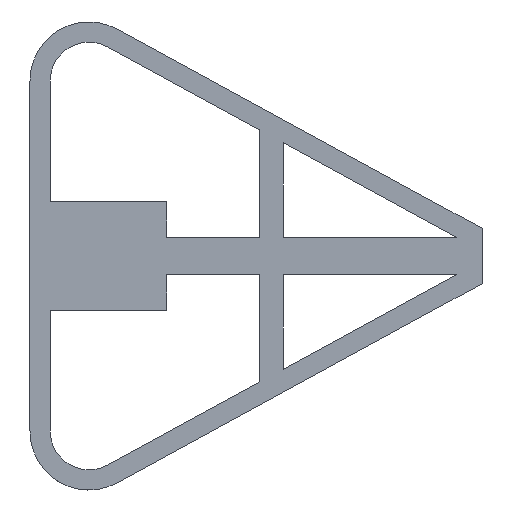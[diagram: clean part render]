
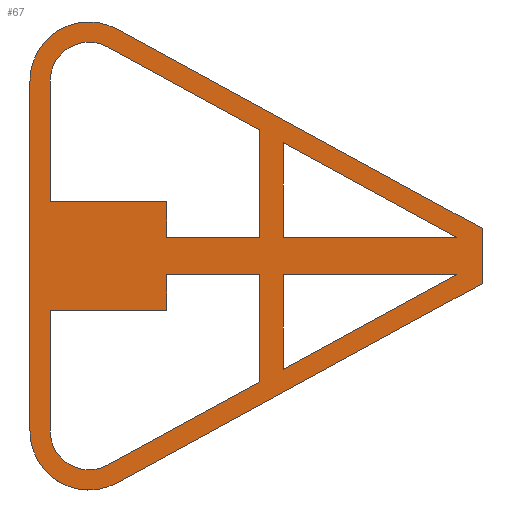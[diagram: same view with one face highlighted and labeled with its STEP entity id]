
A CAD part, top view. The second image highlights one B-rep face of the part: STEP entity #67.
In plain terms, the highlighted planar face has unit normal (0, 0, 1).
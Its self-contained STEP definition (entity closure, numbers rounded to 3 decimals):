
#67=ADVANCED_FACE('',(#325,#327,#329,#331,#333),#335,.T.);
#325=FACE_BOUND('',#326,.T.);
#326=EDGE_LOOP('',(#548,#549,#550,#551,#552,#553));
#327=FACE_BOUND('',#328,.T.);
#328=EDGE_LOOP('',(#554,#555,#556));
#329=FACE_BOUND('',#330,.T.);
#330=EDGE_LOOP('',(#557,#558,#559,#560,#561,#562,#563));
#331=FACE_BOUND('',#332,.T.);
#332=EDGE_LOOP('',(#564,#565,#566));
#333=FACE_BOUND('',#334,.T.);
#334=EDGE_LOOP('',(#567,#568,#569,#570,#571,#572,#573));
#335=PLANE('',#336);
#336=AXIS2_PLACEMENT_3D('',#337,#338,#339);
#337=CARTESIAN_POINT('',(0.,0.,0.6));
#338=DIRECTION('',(0.,0.,1.));
#339=DIRECTION('',(1.,0.,0.));
#548=ORIENTED_EDGE('',*,*,#704,.T.);
#549=ORIENTED_EDGE('',*,*,#705,.T.);
#550=ORIENTED_EDGE('',*,*,#706,.T.);
#551=ORIENTED_EDGE('',*,*,#707,.T.);
#552=ORIENTED_EDGE('',*,*,#708,.T.);
#553=ORIENTED_EDGE('',*,*,#709,.T.);
#554=ORIENTED_EDGE('',*,*,#710,.T.);
#555=ORIENTED_EDGE('',*,*,#711,.T.);
#556=ORIENTED_EDGE('',*,*,#712,.T.);
#557=ORIENTED_EDGE('',*,*,#713,.T.);
#558=ORIENTED_EDGE('',*,*,#714,.T.);
#559=ORIENTED_EDGE('',*,*,#715,.T.);
#560=ORIENTED_EDGE('',*,*,#716,.T.);
#561=ORIENTED_EDGE('',*,*,#717,.T.);
#562=ORIENTED_EDGE('',*,*,#718,.T.);
#563=ORIENTED_EDGE('',*,*,#719,.T.);
#564=ORIENTED_EDGE('',*,*,#720,.T.);
#565=ORIENTED_EDGE('',*,*,#721,.T.);
#566=ORIENTED_EDGE('',*,*,#722,.T.);
#567=ORIENTED_EDGE('',*,*,#723,.T.);
#568=ORIENTED_EDGE('',*,*,#724,.T.);
#569=ORIENTED_EDGE('',*,*,#725,.T.);
#570=ORIENTED_EDGE('',*,*,#726,.T.);
#571=ORIENTED_EDGE('',*,*,#727,.T.);
#572=ORIENTED_EDGE('',*,*,#728,.T.);
#573=ORIENTED_EDGE('',*,*,#729,.T.);
#704=EDGE_CURVE('',#808,#809,#810,.F.);
#705=EDGE_CURVE('',#809,#811,#812,.F.);
#706=EDGE_CURVE('',#811,#813,#814,.F.);
#707=EDGE_CURVE('',#813,#815,#816,.F.);
#708=EDGE_CURVE('',#815,#817,#818,.F.);
#709=EDGE_CURVE('',#817,#808,#819,.F.);
#710=EDGE_CURVE('',#820,#821,#822,.T.);
#711=EDGE_CURVE('',#821,#823,#824,.T.);
#712=EDGE_CURVE('',#823,#820,#825,.T.);
#713=EDGE_CURVE('',#826,#827,#828,.T.);
#714=EDGE_CURVE('',#827,#829,#830,.T.);
#715=EDGE_CURVE('',#829,#831,#832,.T.);
#716=EDGE_CURVE('',#831,#833,#834,.T.);
#717=EDGE_CURVE('',#833,#835,#836,.T.);
#718=EDGE_CURVE('',#835,#837,#838,.T.);
#719=EDGE_CURVE('',#837,#826,#839,.T.);
#720=EDGE_CURVE('',#840,#841,#842,.T.);
#721=EDGE_CURVE('',#841,#843,#844,.T.);
#722=EDGE_CURVE('',#843,#840,#845,.T.);
#723=EDGE_CURVE('',#846,#847,#848,.T.);
#724=EDGE_CURVE('',#847,#849,#850,.T.);
#725=EDGE_CURVE('',#849,#851,#852,.T.);
#726=EDGE_CURVE('',#851,#853,#854,.T.);
#727=EDGE_CURVE('',#853,#855,#856,.T.);
#728=EDGE_CURVE('',#855,#857,#858,.T.);
#729=EDGE_CURVE('',#857,#846,#859,.T.);
#808=VERTEX_POINT('',#994);
#809=VERTEX_POINT('',#995);
#810=CIRCLE('',#996,38.);
#811=VERTEX_POINT('',#1000);
#812=LINE('',#1001,#1002);
#813=VERTEX_POINT('',#1004);
#814=LINE('',#1005,#1006);
#815=VERTEX_POINT('',#1008);
#816=LINE('',#1009,#1010);
#817=VERTEX_POINT('',#1012);
#818=CIRCLE('',#1013,38.);
#819=LINE('',#1017,#1018);
#820=VERTEX_POINT('',#1020);
#821=VERTEX_POINT('',#1021);
#822=LINE('',#1022,#1023);
#823=VERTEX_POINT('',#1025);
#824=LINE('',#1026,#1027);
#825=LINE('',#1029,#1030);
#826=VERTEX_POINT('',#1032);
#827=VERTEX_POINT('',#1033);
#828=LINE('',#1034,#1035);
#829=VERTEX_POINT('',#1037);
#830=CIRCLE('',#1038,25.);
#831=VERTEX_POINT('',#1042);
#832=LINE('',#1043,#1044);
#833=VERTEX_POINT('',#1046);
#834=LINE('',#1047,#1048);
#835=VERTEX_POINT('',#1050);
#836=LINE('',#1051,#1052);
#837=VERTEX_POINT('',#1054);
#838=LINE('',#1055,#1056);
#839=LINE('',#1058,#1059);
#840=VERTEX_POINT('',#1061);
#841=VERTEX_POINT('',#1062);
#842=LINE('',#1063,#1064);
#843=VERTEX_POINT('',#1066);
#844=LINE('',#1067,#1068);
#845=LINE('',#1070,#1071);
#846=VERTEX_POINT('',#1073);
#847=VERTEX_POINT('',#1074);
#848=CIRCLE('',#1075,25.);
#849=VERTEX_POINT('',#1079);
#850=LINE('',#1080,#1081);
#851=VERTEX_POINT('',#1083);
#852=LINE('',#1084,#1085);
#853=VERTEX_POINT('',#1087);
#854=LINE('',#1088,#1089);
#855=VERTEX_POINT('',#1091);
#856=LINE('',#1092,#1093);
#857=VERTEX_POINT('',#1095);
#858=LINE('',#1096,#1097);
#859=LINE('',#1099,#1100);
#994=CARTESIAN_POINT('',(-293.,-112.617,0.6));
#995=CARTESIAN_POINT('',(-236.794,-145.971,0.6));
#996=AXIS2_PLACEMENT_3D('',#997,#998,#999);
#997=CARTESIAN_POINT('',(-255.,-112.617,0.6));
#998=DIRECTION('',(0.,0.,-1.));
#999=DIRECTION('',(0.479,-0.878,0.));
#1000=CARTESIAN_POINT('',(-2.,-17.813,0.6));
#1001=CARTESIAN_POINT('',(-2.,-17.813,0.6));
#1002=VECTOR('',#1003,1.);
#1003=DIRECTION('',(-0.878,-0.479,0.));
#1004=CARTESIAN_POINT('',(-2.,17.813,0.6));
#1005=CARTESIAN_POINT('',(-2.,17.813,0.6));
#1006=VECTOR('',#1007,1.);
#1007=DIRECTION('',(0.,-1.,0.));
#1008=CARTESIAN_POINT('',(-236.794,145.971,0.6));
#1009=CARTESIAN_POINT('',(-236.794,145.971,0.6));
#1010=VECTOR('',#1011,1.);
#1011=DIRECTION('',(0.878,-0.479,0.));
#1012=CARTESIAN_POINT('',(-293.,112.617,0.6));
#1013=AXIS2_PLACEMENT_3D('',#1014,#1015,#1016);
#1014=CARTESIAN_POINT('',(-255.,112.617,0.6));
#1015=DIRECTION('',(0.,0.,-1.));
#1016=DIRECTION('',(-1.,0.,0.));
#1017=CARTESIAN_POINT('',(-293.,-112.617,0.6));
#1018=VECTOR('',#1019,1.);
#1019=DIRECTION('',(0.,1.,0.));
#1020=CARTESIAN_POINT('',(-130.076,72.911,0.6));
#1021=CARTESIAN_POINT('',(-18.484,12.,0.6));
#1022=CARTESIAN_POINT('',(-130.076,72.911,0.6));
#1023=VECTOR('',#1024,1.);
#1024=DIRECTION('',(0.878,-0.479,0.));
#1025=CARTESIAN_POINT('',(-130.076,12.,0.6));
#1026=CARTESIAN_POINT('',(-18.484,12.,0.6));
#1027=VECTOR('',#1028,1.);
#1028=DIRECTION('',(-1.,0.,0.));
#1029=CARTESIAN_POINT('',(-130.076,12.,0.6));
#1030=VECTOR('',#1031,1.);
#1031=DIRECTION('',(0.,1.,0.));
#1032=CARTESIAN_POINT('',(-280.,35.,0.6));
#1033=CARTESIAN_POINT('',(-280.,112.617,0.6));
#1034=CARTESIAN_POINT('',(-280.,35.,0.6));
#1035=VECTOR('',#1036,1.);
#1036=DIRECTION('',(0.,1.,0.));
#1037=CARTESIAN_POINT('',(-243.022,134.561,0.6));
#1038=AXIS2_PLACEMENT_3D('',#1039,#1040,#1041);
#1039=CARTESIAN_POINT('',(-255.,112.617,0.6));
#1040=DIRECTION('',(0.,0.,-1.));
#1041=DIRECTION('',(-1.,0.,0.));
#1042=CARTESIAN_POINT('',(-145.076,81.098,0.6));
#1043=CARTESIAN_POINT('',(-243.022,134.561,0.6));
#1044=VECTOR('',#1045,1.);
#1045=DIRECTION('',(0.878,-0.479,0.));
#1046=CARTESIAN_POINT('',(-145.076,12.,0.6));
#1047=CARTESIAN_POINT('',(-145.076,81.098,0.6));
#1048=VECTOR('',#1049,1.);
#1049=DIRECTION('',(0.,-1.,0.));
#1050=CARTESIAN_POINT('',(-205.027,12.,0.6));
#1051=CARTESIAN_POINT('',(-145.076,12.,0.6));
#1052=VECTOR('',#1053,1.);
#1053=DIRECTION('',(-1.,0.,0.));
#1054=CARTESIAN_POINT('',(-205.027,35.,0.6));
#1055=CARTESIAN_POINT('',(-205.027,12.,0.6));
#1056=VECTOR('',#1057,1.);
#1057=DIRECTION('',(0.,1.,0.));
#1058=CARTESIAN_POINT('',(-205.027,35.,0.6));
#1059=VECTOR('',#1060,1.);
#1060=DIRECTION('',(-1.,0.,0.));
#1061=CARTESIAN_POINT('',(-130.076,-12.,0.6));
#1062=CARTESIAN_POINT('',(-18.484,-12.,0.6));
#1063=CARTESIAN_POINT('',(-130.076,-12.,0.6));
#1064=VECTOR('',#1065,1.);
#1065=DIRECTION('',(1.,0.,0.));
#1066=CARTESIAN_POINT('',(-130.076,-72.911,0.6));
#1067=CARTESIAN_POINT('',(-18.484,-12.,0.6));
#1068=VECTOR('',#1069,1.);
#1069=DIRECTION('',(-0.878,-0.479,0.));
#1070=CARTESIAN_POINT('',(-130.076,-72.911,0.6));
#1071=VECTOR('',#1072,1.);
#1072=DIRECTION('',(0.,1.,0.));
#1073=CARTESIAN_POINT('',(-243.022,-134.561,0.6));
#1074=CARTESIAN_POINT('',(-280.,-112.617,0.6));
#1075=AXIS2_PLACEMENT_3D('',#1076,#1077,#1078);
#1076=CARTESIAN_POINT('',(-255.,-112.617,0.6));
#1077=DIRECTION('',(0.,0.,-1.));
#1078=DIRECTION('',(0.479,-0.878,0.));
#1079=CARTESIAN_POINT('',(-280.,-35.,0.6));
#1080=CARTESIAN_POINT('',(-280.,-112.617,0.6));
#1081=VECTOR('',#1082,1.);
#1082=DIRECTION('',(0.,1.,0.));
#1083=CARTESIAN_POINT('',(-205.027,-35.,0.6));
#1084=CARTESIAN_POINT('',(-280.,-35.,0.6));
#1085=VECTOR('',#1086,1.);
#1086=DIRECTION('',(1.,0.,0.));
#1087=CARTESIAN_POINT('',(-205.027,-12.,0.6));
#1088=CARTESIAN_POINT('',(-205.027,-35.,0.6));
#1089=VECTOR('',#1090,1.);
#1090=DIRECTION('',(0.,1.,0.));
#1091=CARTESIAN_POINT('',(-145.076,-12.,0.6));
#1092=CARTESIAN_POINT('',(-205.027,-12.,0.6));
#1093=VECTOR('',#1094,1.);
#1094=DIRECTION('',(1.,0.,0.));
#1095=CARTESIAN_POINT('',(-145.076,-81.098,0.6));
#1096=CARTESIAN_POINT('',(-145.076,-12.,0.6));
#1097=VECTOR('',#1098,1.);
#1098=DIRECTION('',(0.,-1.,0.));
#1099=CARTESIAN_POINT('',(-145.076,-81.098,0.6));
#1100=VECTOR('',#1101,1.);
#1101=DIRECTION('',(-0.878,-0.479,0.));
